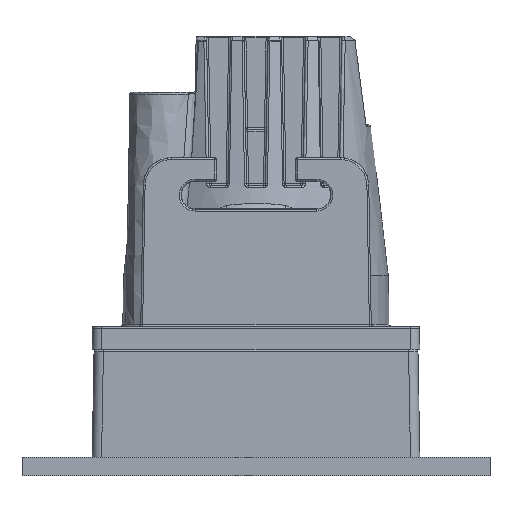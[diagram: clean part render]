
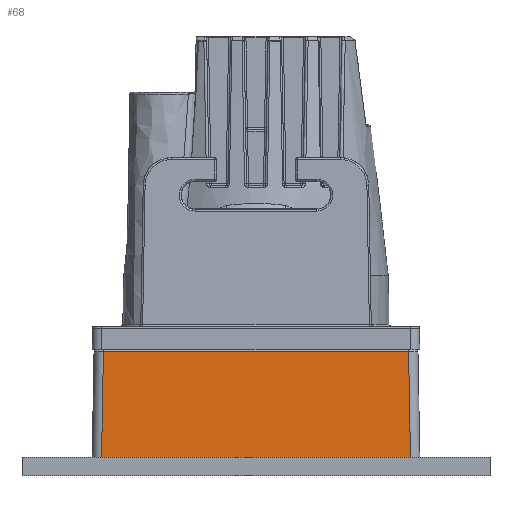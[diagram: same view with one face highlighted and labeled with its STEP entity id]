
A CAD part, left-side view. The second image highlights one B-rep face of the part: STEP entity #68.
In plain terms, the highlighted planar face has unit normal (-1, 0, 0.018).
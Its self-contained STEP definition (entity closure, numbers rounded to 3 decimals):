
#68=ADVANCED_FACE('',(#670),#8433,.T.);
#670=FACE_OUTER_BOUND('',#1274,.T.);
#1274=EDGE_LOOP('',(#2007,#2008,#2009,#2010));
#2007=ORIENTED_EDGE('',*,*,#4790,.T.);
#2008=ORIENTED_EDGE('',*,*,#4766,.T.);
#2009=ORIENTED_EDGE('',*,*,#4786,.T.);
#2010=ORIENTED_EDGE('',*,*,#4792,.T.);
#4766=EDGE_CURVE('',#7622,#7625,#6176,.T.);
#4786=EDGE_CURVE('',#7625,#7634,#6184,.T.);
#4790=EDGE_CURVE('',#7635,#7622,#6187,.T.);
#4792=EDGE_CURVE('',#7634,#7635,#6188,.T.);
#6176=B_SPLINE_CURVE_WITH_KNOTS('',1,(#10206,#10207),.UNSPECIFIED.,.F.,
 .F.,(2,2),(0.,32.606),.UNSPECIFIED.);
#6184=B_SPLINE_CURVE_WITH_KNOTS('',1,(#10264,#10265),.UNSPECIFIED.,.F.,
 .F.,(2,2),(0.,11.307),.UNSPECIFIED.);
#6187=B_SPLINE_CURVE_WITH_KNOTS('',1,(#10273,#10274),.UNSPECIFIED.,.F.,
 .F.,(2,2),(0.,11.307),.UNSPECIFIED.);
#6188=B_SPLINE_CURVE_WITH_KNOTS('',1,(#10278,#10279,#10280,#10281),
 .UNSPECIFIED.,.F.,.F.,(2,1,1,2),(0.,0.428,32.572,33.),
 .UNSPECIFIED.);
#7622=VERTEX_POINT('',#9965);
#7625=VERTEX_POINT('',#9968);
#7634=VERTEX_POINT('',#9977);
#7635=VERTEX_POINT('',#9978);
#8433=PLANE('',#9119);
#9119=AXIS2_PLACEMENT_3D('',#9784,#9251,$);
#9251=DIRECTION('',(-1.,0.,0.017));
#9784=CARTESIAN_POINT('',(-19.781,-20.41,-13.25));
#9965=CARTESIAN_POINT('',(-19.553,-16.303,-0.197));
#9968=CARTESIAN_POINT('',(-19.553,16.303,-0.197));
#9977=CARTESIAN_POINT('',(-19.75,16.5,-11.5));
#9978=CARTESIAN_POINT('',(-19.75,-16.5,-11.5));
#10206=CARTESIAN_POINT('',(-19.553,-16.303,-0.197));
#10207=CARTESIAN_POINT('',(-19.553,16.303,-0.197));
#10264=CARTESIAN_POINT('',(-19.553,16.303,-0.197));
#10265=CARTESIAN_POINT('',(-19.75,16.5,-11.5));
#10273=CARTESIAN_POINT('',(-19.75,-16.5,-11.5));
#10274=CARTESIAN_POINT('',(-19.553,-16.303,-0.197));
#10278=CARTESIAN_POINT('',(-19.75,16.5,-11.5));
#10279=CARTESIAN_POINT('',(-19.75,16.072,-11.5));
#10280=CARTESIAN_POINT('',(-19.75,-16.072,-11.5));
#10281=CARTESIAN_POINT('',(-19.75,-16.5,-11.5));
